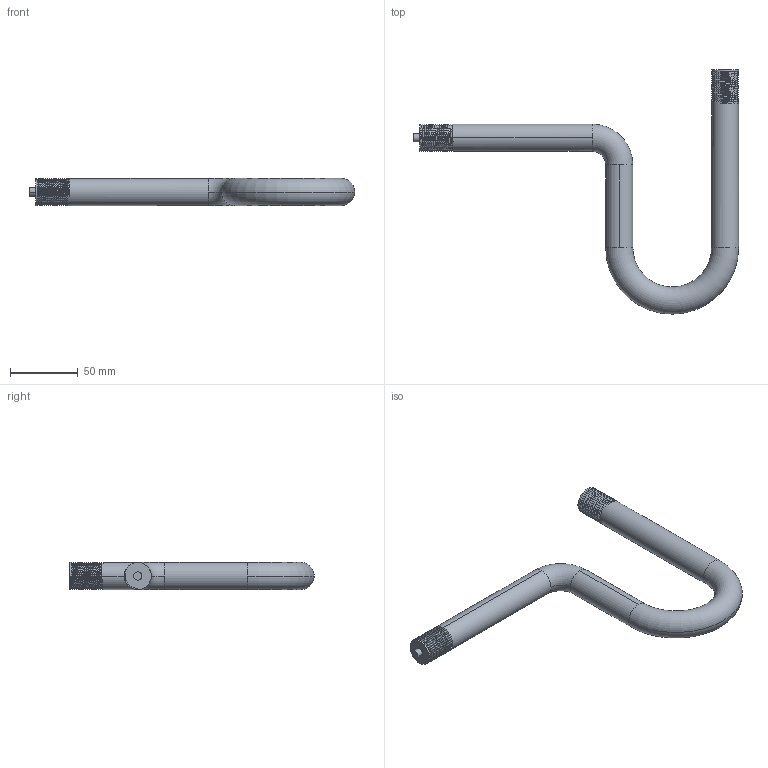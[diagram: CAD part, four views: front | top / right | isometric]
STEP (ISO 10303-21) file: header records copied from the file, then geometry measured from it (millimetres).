
FILE_DESCRIPTION (( 'STEP AP214' ), '1' );
FILE_NAME ('6308510.STEP', '2022-08-16T13:11:24', ( '' ), ( '' ), 'SwSTEP 2.0', 'SolidWorks 2022', '' );
FILE_SCHEMA (( 'AUTOMOTIVE_DESIGN' ));
Length unit declared in the file: millimetre
Products named in the file (1): 6308510
Bounding box: 239.75 x 180 x 20 mm (x, y, z)
Volume: 143607.1 mm3; surface area: 34568.1 mm2
Topology: 1 solids, 1 shells, 86 faces, 238 edges, 156 vertices
Faces by surface type: cylinder 68, plane 8, bspline 6, torus 4
Entity records: 7096 total; most frequent: CARTESIAN_POINT 5265, ORIENTED_EDGE 476, DIRECTION 292, EDGE_CURVE 238, VERTEX_POINT 156, AXIS2_PLACEMENT_3D 111, EDGE_LOOP 88, FACE_OUTER_BOUND 86
